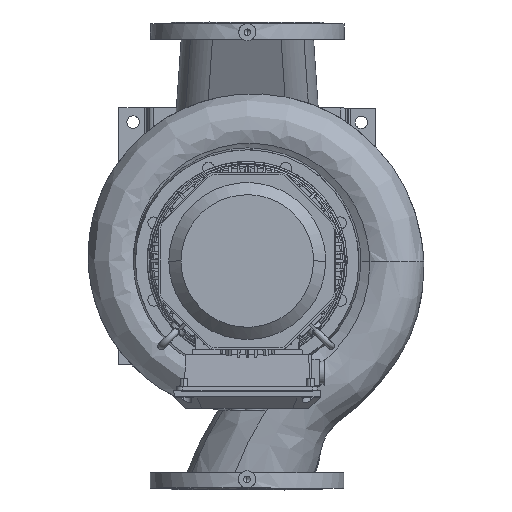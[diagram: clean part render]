
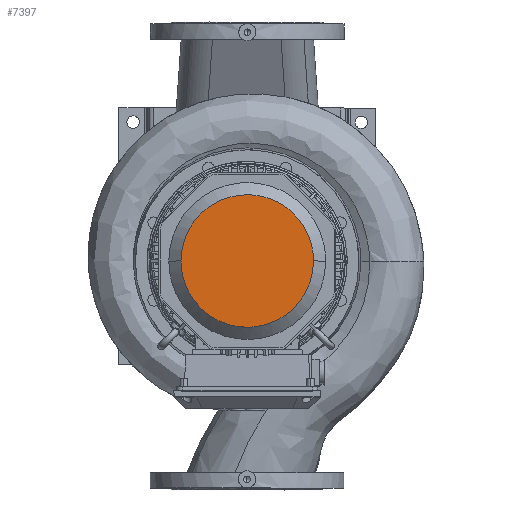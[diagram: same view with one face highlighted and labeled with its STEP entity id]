
A CAD part, top view. The second image highlights one B-rep face of the part: STEP entity #7397.
In plain terms, the highlighted free-form (B-spline) face has degree [1, 1] with [2, 2] control points.
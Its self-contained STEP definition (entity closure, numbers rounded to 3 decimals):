
#7397=ADVANCED_FACE('      F3',(#17844),#17845,.T.);
#7479=EDGE_CURVE('     E20',#17970,#17971,#17972,.T.);
#7483=EDGE_CURVE('     E20',#17971,#17970,#17976,.T.);
#17844=FACE_OUTER_BOUND('',#35985,.T.);
#17845=B_SPLINE_SURFACE_WITH_KNOTS('',1,1,((#35986,#35987),(#35988,#35989)),.UNSPECIFIED.,.F.,.F.,.F.,(2,2),(2,2),(0.044,0.955),(0.039,0.96),.UNSPECIFIED.);
#17970=VERTEX_POINT('',#36430);
#17971=VERTEX_POINT('',#36431);
#17972=(B_SPLINE_CURVE(2,(#36433,#36434,#36435,#36436,#36437),.UNSPECIFIED.,.F.,.F.)B_SPLINE_CURVE_WITH_KNOTS((3,2,3),(56.637,75.516,113.274),.UNSPECIFIED.)RATIONAL_B_SPLINE_CURVE((0.75,0.75,1.0,0.5,1.0))BOUNDED_CURVE()REPRESENTATION_ITEM('')GEOMETRIC_REPRESENTATION_ITEM()CURVE());
#17976=(B_SPLINE_CURVE(2,(#36451,#36452,#36453,#36454,#36455),.UNSPECIFIED.,.F.,.F.)B_SPLINE_CURVE_WITH_KNOTS((3,2,3),(0.0,37.758,56.637),.UNSPECIFIED.)RATIONAL_B_SPLINE_CURVE((1.0,0.5,1.0,0.75,0.75))BOUNDED_CURVE()REPRESENTATION_ITEM('')GEOMETRIC_REPRESENTATION_ITEM()CURVE());
#35985=EDGE_LOOP('',(#72773,#72774));
#35986=CARTESIAN_POINT('',(116.548,-116.667,-389.037));
#35987=CARTESIAN_POINT('',(116.548,116.396,-389.037));
#35988=CARTESIAN_POINT('',(-116.165,-116.667,-389.037));
#35989=CARTESIAN_POINT('',(-116.165,116.396,-389.037));
#36430=CARTESIAN_POINT('',(116.157,0.,-389.037));
#36431=CARTESIAN_POINT('',(-116.157,0.,-389.037));
#36433=CARTESIAN_POINT('',(116.157,0.,-389.037));
#36434=CARTESIAN_POINT('',(116.157,67.063,-389.037));
#36435=CARTESIAN_POINT('',(58.078,100.595,-389.037));
#36436=CARTESIAN_POINT('',(-116.157,201.189,-389.037));
#36437=CARTESIAN_POINT('',(-116.157,0.,-389.037));
#36451=CARTESIAN_POINT('',(-116.157,0.,-389.037));
#36452=CARTESIAN_POINT('',(-116.157,-201.189,-389.037));
#36453=CARTESIAN_POINT('',(58.078,-100.595,-389.037));
#36454=CARTESIAN_POINT('',(116.157,-67.063,-389.037));
#36455=CARTESIAN_POINT('',(116.157,0.,-389.037));
#72773=ORIENTED_EDGE('',*,*,#7483,.F.);
#72774=ORIENTED_EDGE('',*,*,#7479,.F.);
